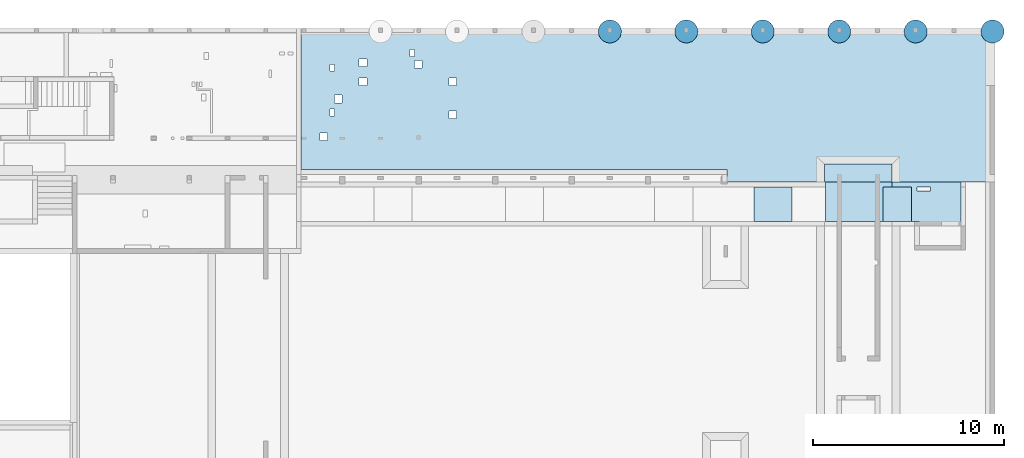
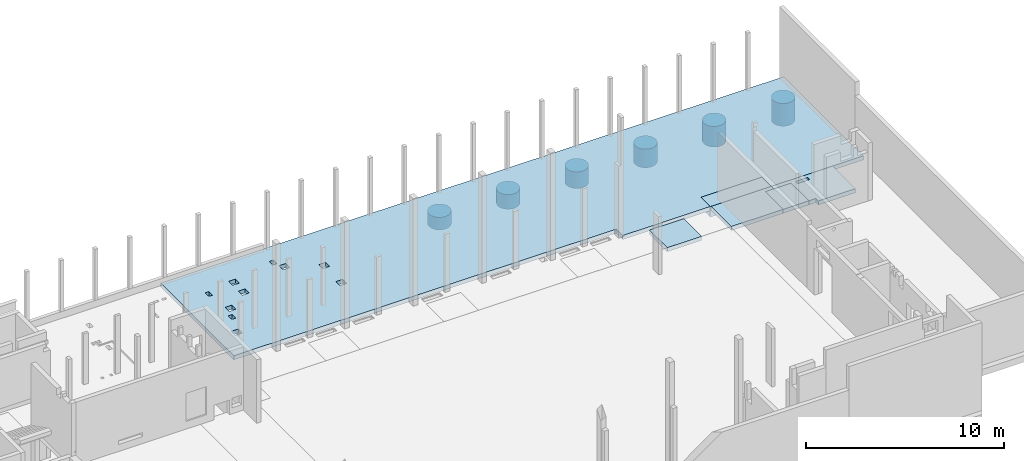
# One storey, part 5 of 12: 12 slabs, 30 openings.
"""IFC2X3 building model written with IfcOpenShell, lengths in metres."""

import ifcopenshell
import ifcopenshell.guid

model = None  # the IFC model being written
_history = None  # IfcOwnerHistory: only IFC2X3 demands one
_inside = {}  # id of a spatial element -> (the spatial element, [elements in it])
_under = {}  # id of a project, library or spatial element -> (it, [spatial elements below it])
_declared = {}  # id of a project -> (the project, [libraries it declares])
_typed = {}  # id of a type object -> (the type object, [elements of that type])
_made_of = {}  # id of a material, layer set ... -> (it, [elements and type objects made of it])


def new_model(schema):
    """Start an empty IFC model of exactly this schema.

    Asked for "IFC4X3", IfcOpenShell would pick the latest addendum, in which some entities
    have other attributes; the version numbers below select the first issue.
    IFC2X3 requires an IfcOwnerHistory on every rooted entity: one is made here for all.
    """
    global model, _history
    if schema == "IFC4X3":
        model = ifcopenshell.file(schema_version=(4, 3, 0, 0))
    else:
        model = ifcopenshell.file(schema=schema)
    _inside.clear()
    _under.clear()
    _declared.clear()
    _typed.clear()
    _made_of.clear()
    _history = None
    if model.schema == "IFC2X3":
        org = make("IfcOrganization", Name="unknown")
        user = make(
            "IfcPersonAndOrganization",
            ThePerson=make("IfcPerson", FamilyName="unknown"),
            TheOrganization=org,
        )
        app = make(
            "IfcApplication",
            ApplicationDeveloper=org,
            Version="unknown",
            ApplicationFullName="unknown",
            ApplicationIdentifier="unknown",
        )
        _history = make(
            "IfcOwnerHistory",
            OwningUser=user,
            OwningApplication=app,
            ChangeAction="ADDED",
            CreationDate=0,
        )
    return model


def make(cls, **values):
    """One entity of the class cls with the attributes given. An attribute that is None is left unset."""
    return model.create_entity(
        cls, **{name: value for name, value in values.items() if value is not None}
    )


def entity(cls, *values):
    """Any entity or typed value of the class cls, its attributes in the order of the schema. None: left unset."""
    e = model.create_entity(cls)
    for i, value in enumerate(values):
        if value is not None:
            e[i] = value
    return e


def rooted(cls, **values):
    """An entity with a GlobalId (a new one), such as an element, a storey or a relation."""
    return make(cls, GlobalId=ifcopenshell.guid.new(), OwnerHistory=_history, **values)


def si_unit(unit_type, name, prefix=None):
    """IfcSIUnit, for example si_unit("LENGTHUNIT", "METRE", prefix="MILLI")."""
    return make("IfcSIUnit", UnitType=unit_type, Prefix=prefix, Name=name)


def converted_unit(unit_type, name, factor, base, dimensions=None, offset=None):
    """IfcConversionBasedUnit, such as the inch: factor (a typed value) times the base unit."""
    return make(
        "IfcConversionBasedUnit"
        if offset is None
        else "IfcConversionBasedUnitWithOffset",
        ConversionOffset=offset,
        Dimensions=None
        if dimensions is None
        else entity("IfcDimensionalExponents", *dimensions),
        UnitType=unit_type,
        Name=name,
        ConversionFactor=make(
            "IfcMeasureWithUnit", ValueComponent=factor, UnitComponent=base
        ),
    )


def assignment(units):
    """IfcUnitAssignment: the units of a project."""
    return None if units is None else make("IfcUnitAssignment", Units=units)


def point(xyz):
    """IfcCartesianPoint."""
    return None if xyz is None else make("IfcCartesianPoint", Coordinates=xyz)


def direction(xyz):
    """IfcDirection."""
    return None if xyz is None else make("IfcDirection", DirectionRatios=xyz)


def frame(location, z_axis=None, x_axis=None):
    """IfcAxis2Placement3D, a coordinate frame: its origin and axes. An axis left out is left unset."""
    return make(
        "IfcAxis2Placement3D",
        Location=point(location),
        Axis=direction(z_axis),
        RefDirection=direction(x_axis),
    )


def frame_2d(location, x_axis=None):
    """IfcAxis2Placement2D, a coordinate frame in the plane: its origin and x axis."""
    return make(
        "IfcAxis2Placement2D", Location=point(location), RefDirection=direction(x_axis)
    )


def origin():
    """The frame at (0, 0, 0) with its axes left unset."""
    return frame((0.0, 0.0, 0.0))


def origin_2d_with_axis():
    """The frame at (0, 0) in the plane with the x axis (1, 0) written out."""
    return frame_2d((0.0, 0.0), x_axis=(1.0, 0.0))


def place(relative_to, where):
    """IfcLocalPlacement: puts the frame where relative to a parent placement (None: the world)."""
    return make(
        "IfcLocalPlacement", PlacementRelTo=relative_to, RelativePlacement=where
    )


def context(
    kind, dimensions, precision=None, world=None, true_north=None, identifier=None
):
    """IfcGeometricRepresentationContext, for example the 3D "Model" context."""
    return make(
        "IfcGeometricRepresentationContext",
        ContextIdentifier=identifier,
        ContextType=kind,
        CoordinateSpaceDimension=dimensions,
        Precision=precision,
        WorldCoordinateSystem=world,
        TrueNorth=true_north,
    )


def subcontext(parent, identifier, kind, view, scale=None):
    """IfcGeometricRepresentationSubContext, for example "Body" below "Model"."""
    return make(
        "IfcGeometricRepresentationSubContext",
        ContextIdentifier=identifier,
        ContextType=kind,
        ParentContext=parent,
        TargetScale=scale,
        TargetView=view,
    )


def project(units=None, contexts=None):
    """IfcProject with its units and contexts."""
    return rooted(
        "IfcProject",
        Name="project",
        RepresentationContexts=contexts,
        UnitsInContext=assignment(units),
    )


def spatial(cls, under=None, at=None, **own):
    """A site, building, storey or space (cls), placed at a placement, below another one or the project."""
    s = rooted(cls, ObjectPlacement=at, **own)
    if under is not None:
        _under.setdefault(under.id(), (under, []))[1].append(s)
    return s


def polyline(points):
    """IfcPolyline through the points."""
    return make("IfcPolyline", Points=[point(p) for p in points])


def profile(cls, at=None, kind="AREA", **sizes):
    """A parametric profile (cls). Its sizes go by their IFC names, for example OverallWidth=200.0."""
    return make(cls, ProfileType=kind, Position=at, **sizes)


def rectangle(**sizes):
    """IfcRectangleProfileDef."""
    return profile("IfcRectangleProfileDef", **sizes)


def circle(**sizes):
    """IfcCircleProfileDef."""
    return profile("IfcCircleProfileDef", **sizes)


def outline(outer, holes=None, kind="AREA"):
    """IfcArbitraryClosedProfileDef: a profile drawn as a closed curve; with holes, ...WithVoids."""
    if holes is None:
        return make("IfcArbitraryClosedProfileDef", ProfileType=kind, OuterCurve=outer)
    return make(
        "IfcArbitraryProfileDefWithVoids",
        ProfileType=kind,
        OuterCurve=outer,
        InnerCurves=holes,
    )


def extrude(swept, where, along, depth):
    """IfcExtrudedAreaSolid: the profile swept, set in the frame where, extruded along a direction by depth."""
    return make(
        "IfcExtrudedAreaSolid",
        SweptArea=swept,
        Position=where,
        ExtrudedDirection=direction(along),
        Depth=depth,
    )


def boolean(op, a, b):
    """IfcBooleanResult of two solids."""
    return make("IfcBooleanResult", Operator=op, FirstOperand=a, SecondOperand=b)


def shape(context_of_items, identifier, shape_type, items):
    """IfcShapeRepresentation: the items that make up one representation, for example the "Body"."""
    return make(
        "IfcShapeRepresentation",
        ContextOfItems=context_of_items,
        RepresentationIdentifier=identifier,
        RepresentationType=shape_type,
        Items=items,
    )


def material(Name=None, Category=None):
    """IfcMaterial."""
    return make("IfcMaterial", Name=Name, Category=Category)


def layer(
    of_material, thickness, ventilated=None, Name=None, Category=None, Priority=None
):
    """IfcMaterialLayer: one layer of a wall or slab, of a material (None: an air gap)."""
    return make(
        "IfcMaterialLayer",
        Material=of_material,
        LayerThickness=thickness,
        IsVentilated=ventilated,
        Name=Name,
        Category=Category,
        Priority=Priority,
    )


def layer_set(layers, Name=None):
    """IfcMaterialLayerSet."""
    return make("IfcMaterialLayerSet", MaterialLayers=layers, LayerSetName=Name)


def layer_usage(for_layer_set, set_direction, sense, offset, extent=None):
    """IfcMaterialLayerSetUsage: how a layer set lies in its element."""
    return make(
        "IfcMaterialLayerSetUsage",
        ForLayerSet=for_layer_set,
        LayerSetDirection=set_direction,
        DirectionSense=sense,
        OffsetFromReferenceLine=offset,
        ReferenceExtent=extent,
    )


def made_of(thing, what):
    """Note that an element or type object is made of a material, layer set ...; save() writes the relation."""
    if what is not None:
        _made_of.setdefault(what.id(), (what, []))[1].append(thing)
    return thing


def type_object(cls, material=None, **own):
    """A type object (cls), such as IfcWallType, which elements share."""
    return made_of(rooted(cls, **own), material)


def element(
    cls,
    number,
    at=None,
    inside=None,
    cuts=None,
    type_object=None,
    material=None,
    context=None,
    identifier="Body",
    shape_type=None,
    held_by="IfcProductDefinitionShape",
    body=None,
    shapes=None,
    **own,
):
    """One element of the class cls, such as IfcWall. Its Tag is "e" and its number.

    at: its placement. inside: the storey or other place that contains it. cuts: it is an
    opening in that element (IfcRelVoidsElement). A single representation is given by context,
    identifier, shape_type and body (its items); several are given by shapes. held_by: the class
    of the entity that holds the representations. save() writes the other relations.
    """
    e = rooted(cls, Tag="e%d" % number, ObjectPlacement=at, **own)
    if body is not None:
        shapes = [shape(context, identifier, shape_type, body)]
    if shapes is not None:
        e.Representation = make(held_by, Representations=shapes)
    if inside is not None:
        _inside.setdefault(inside.id(), (inside, []))[1].append(e)
    if cuts is not None:
        rooted(
            "IfcRelVoidsElement", RelatingBuildingElement=cuts, RelatedOpeningElement=e
        )
    if type_object is not None:
        _typed.setdefault(type_object.id(), (type_object, []))[1].append(e)
    return made_of(e, material)


def aggregate(whole, parts):
    """IfcRelAggregates: a whole, such as a stair, and the parts it consists of."""
    return rooted("IfcRelAggregates", RelatingObject=whole, RelatedObjects=parts)


def save(model, path):
    """Write the relations noted so far, then the file.

    IfcRelAggregates (storeys below a building ...), IfcRelContainedInSpatialStructure (elements
    in a storey), IfcRelDefinesByType, IfcRelAssociatesMaterial and IfcRelDeclares: one each for
    every whole, place, type object, material and project.
    """
    for whole, parts in _under.values():
        aggregate(whole, parts)
    for where, things in _inside.values():
        rooted(
            "IfcRelContainedInSpatialStructure",
            RelatedElements=things,
            RelatingStructure=where,
        )
    for kind, things in _typed.values():
        rooted("IfcRelDefinesByType", RelatedObjects=things, RelatingType=kind)
    for what, things in _made_of.values():
        rooted("IfcRelAssociatesMaterial", RelatedObjects=things, RelatingMaterial=what)
    for by, libraries in _declared.values():
        rooted("IfcRelDeclares", RelatingContext=by, RelatedDefinitions=libraries)
    model.write(path)


model = new_model("IFC2X3")

# Units and contexts
model_context = context("Model", 3, precision=1e-05, world=frame((30.086303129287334, 2.687674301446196, 462.0)), true_north=direction((0.19008937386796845, 0.9817667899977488)))
body_context = subcontext(model_context, "Body", "Model", "MODEL_VIEW")
ifc_project = project(units=[si_unit("LENGTHUNIT", "METRE"), si_unit("AREAUNIT", "SQUARE_METRE"), converted_unit("PLANEANGLEUNIT", "DEGREE", entity("IfcPlaneAngleMeasure", 0.017453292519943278), si_unit("PLANEANGLEUNIT", "RADIAN"), dimensions=[0, 0, 0, 0, 0, 0, 0]), si_unit("VOLUMEUNIT", "CUBIC_METRE")], contexts=[model_context])

# Site, building, storey
site_placement = place(None, origin())
site = spatial("IfcSite", under=ifc_project, at=site_placement, Name="Default", CompositionType="ELEMENT")
building_placement = place(site_placement, origin())
building = spatial("IfcBuilding", under=site, at=building_placement, CompositionType="ELEMENT")
storey_placement = place(building_placement, frame((0.0, 0.0, -3.800000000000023)))
storey = spatial("IfcBuildingStorey", under=building, at=storey_placement, Name="FB_U01_OKFB", CompositionType="ELEMENT", Elevation=-3.800000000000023)

# Slab, opening
ifc_material_1 = material(Name="WS_CONCRETE_REINFORCED")
ifc_layer_1 = layer(ifc_material_1, 0.24999999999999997)
ifc_layer_set_1 = layer_set([ifc_layer_1], Name="Geschossdecke:WS_SLB_CON_250")
ifc_layer_usage_1 = layer_usage(ifc_layer_set_1, "AXIS3", "POSITIVE", 0.0)
slab_type_1 = type_object("IfcSlabType", Name="Geschossdecke:WS_SLB_CON_250", PredefinedType="FLOOR", material=ifc_layer_set_1)
slab_1_placement = place(storey_placement, origin())
slab_1 = element("IfcSlab", 1, at=slab_1_placement, inside=storey, type_object=slab_type_1, material=ifc_layer_usage_1, Name="Geschossdecke:WS_SLB_CON_250", ObjectType="Geschossdecke:WS_SLB_CON_250", PredefinedType="FLOOR", context=body_context, shape_type="SweptSolid", body=[
    extrude(outline(polyline([(-1.283320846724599, -2.171667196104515), (0.7666416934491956, -2.171667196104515), (0.7666416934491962, 1.328334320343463), (0.5166791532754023, 1.328334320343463), (0.516679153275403, 0.8433328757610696), (-1.2833208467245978, 0.8433328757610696), (-1.283320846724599, -2.171667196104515)])), frame((91.5520044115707, -2.296250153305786, 3.6800000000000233), z_axis=(0.0, 0.0, -1.0), x_axis=(0.0, 1.0, 0.0)), (0.0, 0.0, 1.0), 0.25000000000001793),
])
opening_1_placement = place(slab_1_placement, origin())
element("IfcOpeningElement", 2, at=opening_1_placement, cuts=slab_1, Name="Geschossdecke:WS_SLB_CON_250", ObjectType="Opening", context=body_context, shape_type="SweptSolid", body=[
    extrude(rectangle(XDim=1.7999999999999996, YDim=1.5000000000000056, at=origin_2d_with_axis()), frame((93.14533728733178, -2.6795710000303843, 3.4300000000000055), z_axis=(0.0, 0.0, 1.0), x_axis=(0.0, -1.0, 0.0)), (0.0, 0.0, 1.0), 0.24999999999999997),
])

# Slab, openings
ifc_layer_usage_2 = layer_usage(ifc_layer_set_1, "AXIS3", "POSITIVE", 0.0)
slab_2_placement = place(storey_placement, origin())
solid = boolean("DIFFERENCE", boolean("DIFFERENCE", boolean("DIFFERENCE", boolean("DIFFERENCE", boolean("DIFFERENCE", boolean("DIFFERENCE", boolean("DIFFERENCE", boolean("DIFFERENCE", extrude(outline(polyline([(-1.27799830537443, -23.37500009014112), (6.117000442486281, -23.37500009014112), (6.117000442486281, 12.924999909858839), (-1.927998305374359, 12.924999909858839), (-1.927998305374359, 7.550000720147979), (-0.9830055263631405, 7.550000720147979), (-0.9830055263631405, 3.999999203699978), (-1.927998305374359, 3.9999992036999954), (-1.927998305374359, -1.0999997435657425), (-1.27799830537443, -1.0999997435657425), (-1.27799830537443, -23.37500009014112)])), frame((85.33033801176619, 0.3983505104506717, 3.6800000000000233), z_axis=(0.0, 0.0, -1.0), x_axis=(0.0, 1.0, 0.0)), (0.0, 0.0, 1.0), 0.25000000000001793), extrude(rectangle(XDim=0.39999999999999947, YDim=0.40000000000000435, at=frame_2d((0.0, -1.2989609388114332e-14), x_axis=(1.0, 0.0))), frame((63.129394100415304, 0.8503501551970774, 3.4300000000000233), z_axis=(0.0, 0.0, 1.0), x_axis=(0.0, 1.0, 0.0)), (0.0, 0.0, 1.0), 0.24999999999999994)), extrude(rectangle(XDim=0.3599999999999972, YDim=0.2299999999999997, at=frame_2d((0.0, -8.666678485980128e-15), x_axis=(1.0, 0.0))), frame((63.57933734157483, 2.1253515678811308, 3.4300000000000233), z_axis=(0.0, 0.0, 1.0), x_axis=(0.0, 1.0, 0.0)), (0.0, 0.0, 1.0), 0.24999999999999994)), extrude(rectangle(XDim=0.3599999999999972, YDim=0.2299999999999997, at=frame_2d((0.0, -8.666678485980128e-15), x_axis=(1.0, 0.0))), frame((63.57933734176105, 4.455173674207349, 3.4300000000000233), z_axis=(0.0, 0.0, 1.0), x_axis=(0.0, 1.0, 0.0)), (0.0, 0.0, 1.0), 0.24999999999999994)), extrude(rectangle(XDim=0.3999999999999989, YDim=0.40000000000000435, at=frame_2d((-2.636779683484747e-16, -4.3298697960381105e-15), x_axis=(1.0, 0.0))), frame((63.903911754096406, 2.8253515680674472, 3.4300000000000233), z_axis=(0.0, 0.0, 1.0), x_axis=(0.0, 1.0, 0.0)), (0.0, 0.0, 1.0), 0.24999999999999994)), extrude(rectangle(XDim=0.39999999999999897, YDim=0.40000000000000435, at=frame_2d((0.0, -4.3298697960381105e-15), x_axis=(1.0, 0.0))), frame((65.1893367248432, 3.7292182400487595, 3.4300000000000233), z_axis=(0.0, 0.0, 1.0), x_axis=(0.0, 1.0, 0.0)), (0.0, 0.0, 1.0), 0.24999999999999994)), extrude(rectangle(XDim=0.3999999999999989, YDim=0.40000000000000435, at=frame_2d((0.0, -4.3298697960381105e-15), x_axis=(1.0, 0.0))), frame((65.1893367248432, 4.723367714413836, 3.4300000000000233), z_axis=(0.0, 0.0, 1.0), x_axis=(0.0, 1.0, 0.0)), (0.0, 0.0, 1.0), 0.24999999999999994)), extrude(rectangle(XDim=0.3599999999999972, YDim=0.2299999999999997, at=frame_2d((5.412337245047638e-16, -8.666678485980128e-15), x_axis=(1.0, 0.0))), frame((67.76533831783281, 5.235392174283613, 3.4300000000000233), z_axis=(0.0, 0.0, 1.0), x_axis=(0.0, 1.0, 0.0)), (0.0, 0.0, 1.0), 0.24999999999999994)), extrude(rectangle(XDim=0.3999999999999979, YDim=0.40000000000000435, at=frame_2d((0.0, -4.3298697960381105e-15), x_axis=(1.0, 0.0))), frame((68.08283825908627, 4.637667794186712, 3.4300000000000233), z_axis=(0.0, 0.0, 1.0), x_axis=(0.0, 1.0, 0.0)), (0.0, 0.0, 1.0), 0.24999999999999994))
slab_2 = element("IfcSlab", 3, at=slab_2_placement, inside=storey, type_object=slab_type_1, material=ifc_layer_usage_2, Name="Geschossdecke:WS_SLB_CON_250", ObjectType="Geschossdecke:WS_SLB_CON_250", PredefinedType="FLOOR", context=body_context, shape_type="SweptSolid", body=[
    boolean("DIFFERENCE", boolean("DIFFERENCE", solid, extrude(rectangle(XDim=0.39999999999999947, YDim=0.40000000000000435, at=frame_2d((2.636779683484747e-16, -4.3298697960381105e-15), x_axis=(1.0, 0.0))), frame((69.87844319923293, 1.9972222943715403, 3.4300000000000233), z_axis=(0.0, 0.0, 1.0), x_axis=(0.0, 1.0, 0.0)), (0.0, 0.0, 1.0), 0.24999999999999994)), extrude(rectangle(XDim=0.3999999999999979, YDim=0.40000000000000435, at=frame_2d((0.0, -4.3298697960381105e-15), x_axis=(1.0, 0.0))), frame((69.87844319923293, 3.7193406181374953, 3.4300000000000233), z_axis=(0.0, 0.0, 1.0), x_axis=(0.0, 1.0, 0.0)), (0.0, 0.0, 1.0), 0.24999999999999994)),
])
opening_2_placement = place(slab_2_placement, origin())
element("IfcOpeningElement", 4, at=opening_2_placement, cuts=slab_2, Name="Geschossdecke:WS_SLB_CON_250", ObjectType="Opening", context=body_context, shape_type="SweptSolid", body=[
    extrude(rectangle(XDim=0.31999999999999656, YDim=0.3200000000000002, at=frame_2d((0.0, 6.938893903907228e-17), x_axis=(1.0, 0.0))), frame((62.515338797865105, -1.3695653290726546, 3.4300000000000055), z_axis=(0.0, 0.0, 1.0), x_axis=(-1.0, 0.0, 0.0)), (0.0, 0.0, 1.0), 0.24999999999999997),
])
opening_3_placement = place(slab_2_placement, origin())
element("IfcOpeningElement", 5, at=opening_3_placement, cuts=slab_2, Name="Geschossdecke:WS_SLB_CON_250", ObjectType="Opening", context=body_context, shape_type="SweptSolid", body=[
    extrude(rectangle(XDim=0.40000000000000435, YDim=0.39999999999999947, at=frame_2d((-4.3298697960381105e-15, 0.0), x_axis=(1.0, 0.0))), frame((63.12939410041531, 0.8503501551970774, 3.4300000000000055), z_axis=(0.0, 0.0, 1.0), x_axis=(-1.0, 0.0, 0.0)), (0.0, 0.0, 1.0), 0.24999999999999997),
])
opening_4_placement = place(slab_2_placement, origin())
element("IfcOpeningElement", 6, at=opening_4_placement, cuts=slab_2, Name="Geschossdecke:WS_SLB_CON_250", ObjectType="Opening", context=body_context, shape_type="SweptSolid", body=[
    extrude(rectangle(XDim=0.2299999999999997, YDim=0.3599999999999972, at=origin_2d_with_axis()), frame((63.579337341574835, 2.1253515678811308, 3.4300000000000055), z_axis=(0.0, 0.0, 1.0), x_axis=(-1.0, 0.0, 0.0)), (0.0, 0.0, 1.0), 0.24999999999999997),
])
opening_5_placement = place(slab_2_placement, origin())
element("IfcOpeningElement", 7, at=opening_5_placement, cuts=slab_2, Name="Geschossdecke:WS_SLB_CON_250", ObjectType="Opening", context=body_context, shape_type="SweptSolid", body=[
    extrude(rectangle(XDim=0.40000000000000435, YDim=0.39999999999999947, at=frame_2d((-4.3298697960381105e-15, 2.636779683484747e-16), x_axis=(1.0, 0.0))), frame((63.903911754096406, 2.8253515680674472, 3.4300000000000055), z_axis=(0.0, 0.0, 1.0), x_axis=(-1.0, 0.0, 0.0)), (0.0, 0.0, 1.0), 0.24999999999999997),
])
opening_6_placement = place(slab_2_placement, origin())
element("IfcOpeningElement", 8, at=opening_6_placement, cuts=slab_2, Name="Geschossdecke:WS_SLB_CON_250", ObjectType="Opening", context=body_context, shape_type="SweptSolid", body=[
    extrude(rectangle(XDim=0.2299999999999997, YDim=0.3599999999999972, at=origin_2d_with_axis()), frame((63.579337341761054, 4.455173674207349, 3.4300000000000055), z_axis=(0.0, 0.0, 1.0), x_axis=(-1.0, 0.0, 0.0)), (0.0, 0.0, 1.0), 0.24999999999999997),
])
opening_7_placement = place(slab_2_placement, origin())
element("IfcOpeningElement", 9, at=opening_7_placement, cuts=slab_2, Name="Geschossdecke:WS_SLB_CON_250", ObjectType="Opening", context=body_context, shape_type="SweptSolid", body=[
    extrude(rectangle(XDim=0.40000000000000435, YDim=0.39999999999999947, at=frame_2d((-4.3298697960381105e-15, -2.636779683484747e-16), x_axis=(1.0, 0.0))), frame((65.1893367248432, 4.723367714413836, 3.4300000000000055), z_axis=(0.0, 0.0, 1.0), x_axis=(-1.0, 0.0, 0.0)), (0.0, 0.0, 1.0), 0.24999999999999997),
])
opening_8_placement = place(slab_2_placement, origin())
element("IfcOpeningElement", 10, at=opening_8_placement, cuts=slab_2, Name="Geschossdecke:WS_SLB_CON_250", ObjectType="Opening", context=body_context, shape_type="SweptSolid", body=[
    extrude(rectangle(XDim=0.40000000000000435, YDim=0.39999999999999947, at=frame_2d((-4.3298697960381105e-15, 2.636779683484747e-16), x_axis=(1.0, 0.0))), frame((65.1893367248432, 3.7292182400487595, 3.4300000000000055), z_axis=(0.0, 0.0, 1.0), x_axis=(-1.0, 0.0, 0.0)), (0.0, 0.0, 1.0), 0.24999999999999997),
])
opening_9_placement = place(slab_2_placement, origin())
element("IfcOpeningElement", 11, at=opening_9_placement, cuts=slab_2, Name="Geschossdecke:WS_SLB_CON_250", ObjectType="Opening", context=body_context, shape_type="SweptSolid", body=[
    extrude(rectangle(XDim=0.2299999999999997, YDim=0.3599999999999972, at=frame_2d((0.0, -5.412337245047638e-16), x_axis=(1.0, 0.0))), frame((67.76533831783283, 5.235392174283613, 3.4300000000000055), z_axis=(0.0, 0.0, 1.0), x_axis=(-1.0, 0.0, 0.0)), (0.0, 0.0, 1.0), 0.24999999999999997),
])
opening_10_placement = place(slab_2_placement, origin())
element("IfcOpeningElement", 12, at=opening_10_placement, cuts=slab_2, Name="Geschossdecke:WS_SLB_CON_250", ObjectType="Opening", context=body_context, shape_type="SweptSolid", body=[
    extrude(rectangle(XDim=0.40000000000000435, YDim=0.39999999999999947, at=frame_2d((4.3298697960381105e-15, 2.636779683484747e-16), x_axis=(1.0, 0.0))), frame((68.08283825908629, 4.637667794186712, 3.4300000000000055), z_axis=(0.0, 0.0, 1.0), x_axis=(-1.0, 0.0, 0.0)), (0.0, 0.0, 1.0), 0.24999999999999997),
])
opening_11_placement = place(slab_2_placement, origin())
element("IfcOpeningElement", 13, at=opening_11_placement, cuts=slab_2, Name="Geschossdecke:WS_SLB_CON_250", ObjectType="Opening", context=body_context, shape_type="SweptSolid", body=[
    extrude(rectangle(XDim=0.40000000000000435, YDim=0.39999999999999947, at=frame_2d((-4.3298697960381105e-15, 2.636779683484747e-16), x_axis=(1.0, 0.0))), frame((69.87844319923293, 3.7193406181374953, 3.4300000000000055), z_axis=(0.0, 0.0, 1.0), x_axis=(-1.0, 0.0, 0.0)), (0.0, 0.0, 1.0), 0.24999999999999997),
])
opening_12_placement = place(slab_2_placement, origin())
element("IfcOpeningElement", 14, at=opening_12_placement, cuts=slab_2, Name="Geschossdecke:WS_SLB_CON_250", ObjectType="Opening", context=body_context, shape_type="SweptSolid", body=[
    extrude(rectangle(XDim=0.40000000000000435, YDim=0.39999999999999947, at=frame_2d((-4.3298697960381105e-15, -2.636779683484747e-16), x_axis=(1.0, 0.0))), frame((69.87844319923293, 1.9972222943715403, 3.4300000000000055), z_axis=(0.0, 0.0, 1.0), x_axis=(-1.0, 0.0, 0.0)), (0.0, 0.0, 1.0), 0.24999999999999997),
])
opening_13_placement = place(slab_2_placement, origin())
element("IfcOpeningElement", 15, at=opening_13_placement, cuts=slab_2, Name="Geschossdecke:WS_SLB_CON_250", ObjectType="Opening", context=body_context, shape_type="SweptSolid", body=[
    extrude(rectangle(XDim=0.22000000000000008, YDim=1.020000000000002, at=frame_2d((0.0, 4.3298697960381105e-15), x_axis=(1.0, 0.0))), frame((65.19533996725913, -1.4196076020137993, 3.4300000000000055), z_axis=(0.0, 0.0, 1.0), x_axis=(0.0, -1.0, 0.0)), (0.0, 0.0, 1.0), 0.24999999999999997),
])
opening_14_placement = place(slab_2_placement, origin())
element("IfcOpeningElement", 16, at=opening_14_placement, cuts=slab_2, Name="Geschossdecke:WS_SLB_CON_250", ObjectType="Opening", context=body_context, shape_type="SweptSolid", body=[
    extrude(rectangle(XDim=0.22000000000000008, YDim=1.020000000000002, at=frame_2d((0.0, -4.3298697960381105e-15), x_axis=(1.0, 0.0))), frame((67.0153331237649, -1.419607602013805, 3.4300000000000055), z_axis=(0.0, 0.0, 1.0), x_axis=(0.0, -1.0, 0.0)), (0.0, 0.0, 1.0), 0.24999999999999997),
])
opening_15_placement = place(slab_2_placement, origin())
element("IfcOpeningElement", 17, at=opening_15_placement, cuts=slab_2, Name="Geschossdecke:WS_SLB_CON_250", ObjectType="Opening", context=body_context, shape_type="SweptSolid", body=[
    extrude(rectangle(XDim=0.22000000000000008, YDim=1.020000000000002, at=frame_2d((0.0, -4.3298697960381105e-15), x_axis=(1.0, 0.0))), frame((69.19533442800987, -1.4196076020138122, 3.4300000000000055), z_axis=(0.0, 0.0, 1.0), x_axis=(0.0, -1.0, 0.0)), (0.0, 0.0, 1.0), 0.24999999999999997),
])
opening_16_placement = place(slab_2_placement, origin())
element("IfcOpeningElement", 18, at=opening_16_placement, cuts=slab_2, Name="Geschossdecke:WS_SLB_CON_250", ObjectType="Opening", context=body_context, shape_type="SweptSolid", body=[
    extrude(rectangle(XDim=0.22000000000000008, YDim=1.020000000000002, at=frame_2d((0.0, -4.3298697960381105e-15), x_axis=(1.0, 0.0))), frame((73.19534044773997, -1.4196076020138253, 3.4300000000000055), z_axis=(0.0, 0.0, 1.0), x_axis=(0.0, -1.0, 0.0)), (0.0, 0.0, 1.0), 0.24999999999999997),
])
opening_17_placement = place(slab_2_placement, origin())
element("IfcOpeningElement", 19, at=opening_17_placement, cuts=slab_2, Name="Geschossdecke:WS_SLB_CON_250", ObjectType="Opening", context=body_context, shape_type="SweptSolid", body=[
    extrude(rectangle(XDim=0.22000000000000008, YDim=1.0199999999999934, at=frame_2d((0.0, -8.659739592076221e-15), x_axis=(1.0, 0.0))), frame((81.1948489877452, -1.4196477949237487, 3.4300000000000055), z_axis=(0.0, 0.0, 1.0), x_axis=(0.0, -1.0, 0.0)), (0.0, 0.0, 1.0), 0.24999999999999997),
])
opening_18_placement = place(slab_2_placement, origin())
element("IfcOpeningElement", 20, at=opening_18_placement, cuts=slab_2, Name="Geschossdecke:WS_SLB_CON_250", ObjectType="Opening", context=body_context, shape_type="SweptSolid", body=[
    extrude(rectangle(XDim=0.22000000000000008, YDim=1.0199999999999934, at=frame_2d((0.0, -8.659739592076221e-15), x_axis=(1.0, 0.0))), frame((83.01533312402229, -1.419647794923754, 3.4300000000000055), z_axis=(0.0, 0.0, 1.0), x_axis=(0.0, -1.0, 0.0)), (0.0, 0.0, 1.0), 0.24999999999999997),
])
opening_19_placement = place(slab_2_placement, origin())
element("IfcOpeningElement", 21, at=opening_19_placement, cuts=slab_2, Name="Geschossdecke:WS_SLB_CON_250", ObjectType="Opening", context=body_context, shape_type="SweptSolid", body=[
    extrude(rectangle(XDim=0.31999999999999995, YDim=0.31999999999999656, at=frame_2d((-6.938893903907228e-17, 0.0), x_axis=(1.0, 0.0))), frame((79.69533854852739, -1.3695745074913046, 3.4300000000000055), z_axis=(0.0, 0.0, 1.0), x_axis=(0.0, -1.0, 0.0)), (0.0, 0.0, 1.0), 0.24999999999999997),
])
opening_20_placement = place(slab_2_placement, origin())
element("IfcOpeningElement", 22, at=opening_20_placement, cuts=slab_2, Name="Geschossdecke:WS_SLB_CON_250", ObjectType="Opening", context=body_context, shape_type="SweptSolid", body=[
    extrude(rectangle(XDim=1.100000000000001, YDim=0.30000000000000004, at=frame_2d((4.3298697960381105e-15, 0.0), x_axis=(1.0, 0.0))), frame((73.19534044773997, -1.4196076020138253, 3.639999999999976), z_axis=(0.0, 0.0, 1.0), x_axis=(-1.0, 0.0, 0.0)), (0.0, 0.0, 1.0), 0.04000000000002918),
])
opening_21_placement = place(slab_2_placement, origin())
element("IfcOpeningElement", 23, at=opening_21_placement, cuts=slab_2, Name="Geschossdecke:WS_SLB_CON_250", ObjectType="Opening", context=body_context, shape_type="SweptSolid", body=[
    extrude(rectangle(XDim=1.100000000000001, YDim=0.30000000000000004, at=frame_2d((4.3298697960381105e-15, 0.0), x_axis=(1.0, 0.0))), frame((69.19533442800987, -1.4196076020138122, 3.639999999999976), z_axis=(0.0, 0.0, 1.0), x_axis=(-1.0, 0.0, 0.0)), (0.0, 0.0, 1.0), 0.04000000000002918),
])
opening_22_placement = place(slab_2_placement, origin())
element("IfcOpeningElement", 24, at=opening_22_placement, cuts=slab_2, Name="Geschossdecke:WS_SLB_CON_250", ObjectType="Opening", context=body_context, shape_type="SweptSolid", body=[
    extrude(rectangle(XDim=1.100000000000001, YDim=0.30000000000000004, at=frame_2d((4.3298697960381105e-15, 0.0), x_axis=(1.0, 0.0))), frame((65.19533996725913, -1.4196076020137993, 3.639999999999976), z_axis=(0.0, 0.0, 1.0), x_axis=(-1.0, 0.0, 0.0)), (0.0, 0.0, 1.0), 0.04000000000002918),
])
opening_23_placement = place(slab_2_placement, origin())
element("IfcOpeningElement", 25, at=opening_23_placement, cuts=slab_2, Name="Geschossdecke:WS_SLB_CON_250", ObjectType="Opening", context=body_context, shape_type="SweptSolid", body=[
    extrude(rectangle(XDim=1.100000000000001, YDim=0.30000000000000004, at=frame_2d((-4.3298697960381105e-15, 0.0), x_axis=(1.0, 0.0))), frame((67.01533312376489, -1.419607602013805, 3.639999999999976), z_axis=(0.0, 0.0, 1.0), x_axis=(-1.0, 0.0, 0.0)), (0.0, 0.0, 1.0), 0.04000000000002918),
])
opening_24_placement = place(slab_2_placement, origin())
element("IfcOpeningElement", 26, at=opening_24_placement, cuts=slab_2, Name="Geschossdecke:WS_SLB_CON_250", ObjectType="Opening", context=body_context, shape_type="SweptSolid", body=[
    extrude(rectangle(XDim=1.0999999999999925, YDim=0.30000000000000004, at=origin_2d_with_axis()), frame((83.01533312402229, -1.4196477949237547, 3.639999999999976), z_axis=(0.0, 0.0, 1.0), x_axis=(-1.0, 0.0, 0.0)), (0.0, 0.0, 1.0), 0.04000000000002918),
])
opening_25_placement = place(slab_2_placement, origin())
element("IfcOpeningElement", 27, at=opening_25_placement, cuts=slab_2, Name="Geschossdecke:WS_SLB_CON_250", ObjectType="Opening", context=body_context, shape_type="SweptSolid", body=[
    extrude(rectangle(XDim=1.0999999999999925, YDim=0.30000000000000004, at=origin_2d_with_axis()), frame((81.1948489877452, -1.419647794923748, 3.639999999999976), z_axis=(0.0, 0.0, 1.0), x_axis=(-1.0, 0.0, 0.0)), (0.0, 0.0, 1.0), 0.04000000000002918),
])
opening_26_placement = place(slab_2_placement, origin())
element("IfcOpeningElement", 28, at=opening_26_placement, cuts=slab_2, Name="Geschossdecke:WS_SLB_CON_250", ObjectType="Opening", context=body_context, shape_type="SweptSolid", body=[
    extrude(rectangle(XDim=0.22000000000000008, YDim=1.020000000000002, at=frame_2d((0.0, -4.3298697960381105e-15), x_axis=(1.0, 0.0))), frame((77.19534019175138, -1.4196076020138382, 3.4300000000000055), z_axis=(0.0, 0.0, 1.0), x_axis=(0.0, -1.0, 0.0)), (0.0, 0.0, 1.0), 0.24999999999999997),
])
opening_27_placement = place(slab_2_placement, origin())
element("IfcOpeningElement", 29, at=opening_27_placement, cuts=slab_2, Name="Geschossdecke:WS_SLB_CON_250", ObjectType="Opening", context=body_context, shape_type="SweptSolid", body=[
    extrude(rectangle(XDim=1.100000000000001, YDim=0.30000000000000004, at=frame_2d((-4.3298697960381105e-15, 0.0), x_axis=(1.0, 0.0))), frame((77.19534019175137, -1.4196076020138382, 3.639999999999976), z_axis=(0.0, 0.0, 1.0), x_axis=(-1.0, 0.0, 0.0)), (0.0, 0.0, 1.0), 0.04000000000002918),
])

ifc_layer_usage_3 = layer_usage(ifc_layer_set_1, "AXIS3", "POSITIVE", 0.0)
slab_3_placement = place(storey_placement, origin())
slab_3 = element("IfcSlab", 30, at=slab_3_placement, inside=storey, type_object=slab_type_1, material=ifc_layer_usage_3, Name="Geschossdecke:WS_SLB_CON_250", ObjectType="Geschossdecke:WS_SLB_CON_250", PredefinedType="FLOOR", context=body_context, shape_type="SweptSolid", body=[
    boolean("DIFFERENCE", extrude(outline(polyline([(0.9000388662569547, -1.5062490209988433), (1.1499620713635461, -1.5062490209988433), (1.149962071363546, 2.083749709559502), (-1.1500004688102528, 2.083749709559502), (-1.1500004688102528, -0.08625022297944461), (-0.9000004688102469, -0.08625022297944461), (-0.9000004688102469, -0.4912504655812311), (0.9000388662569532, -0.4912504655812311), (0.9000388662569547, -1.5062490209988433)])), frame((94.38658775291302, -2.6796098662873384, 3.6800000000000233), z_axis=(0.0, 0.0, -1.0), x_axis=(0.0, 1.0, 0.0)), (0.0, 0.0, 1.0), 0.25000000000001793), extrude(rectangle(XDim=0.20000003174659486, YDim=0.7000000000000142, at=frame_2d((-2.706168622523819e-16, 0.0), x_axis=(1.0, 0.0))), frame((94.52733732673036, -1.8795770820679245, 3.4300000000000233), z_axis=(0.0, 0.0, 1.0), x_axis=(0.0, 1.0, 0.0)), (0.0, 0.0, 1.0), 0.24999999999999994)),
])
opening_28_placement = place(slab_3_placement, origin())
element("IfcOpeningElement", 31, at=opening_28_placement, cuts=slab_3, Name="Geschossdecke:WS_SLB_CON_250", ObjectType="Opening", context=body_context, shape_type="SweptSolid", body=[
    extrude(rectangle(XDim=2.169999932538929, YDim=1.0049664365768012, at=origin_2d_with_axis()), frame((95.38533749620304, -4.332093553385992, 3.4300000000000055), z_axis=(0.0, 0.0, 1.0), x_axis=(-1.0, 0.0, 0.0)), (0.0, 0.0, 1.0), 0.24999999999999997),
])
opening_29_placement = place(slab_3_placement, origin())
element("IfcOpeningElement", 32, at=opening_29_placement, cuts=slab_3, Name="Geschossdecke:WS_SLB_CON_250", ObjectType="Opening", context=body_context, shape_type="SweptSolid", body=[
    extrude(rectangle(XDim=1.7999999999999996, YDim=1.5000000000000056, at=origin_2d_with_axis()), frame((93.14533728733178, -2.6795710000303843, 3.4300000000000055), z_axis=(0.0, 0.0, 1.0), x_axis=(0.0, -1.0, 0.0)), (0.0, 0.0, 1.0), 0.24999999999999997),
])
opening_30_placement = place(slab_3_placement, origin())
element("IfcOpeningElement", 33, at=opening_30_placement, cuts=slab_3, Name="Geschossdecke:WS_SLB_CON_250", ObjectType="Opening", context=body_context, shape_type="SweptSolid", body=[
    extrude(rectangle(XDim=0.7000000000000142, YDim=0.20000003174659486, at=frame_2d((0.0, 2.706168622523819e-16), x_axis=(1.0, 0.0))), frame((94.52733732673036, -1.8795770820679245, 3.4300000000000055), z_axis=(0.0, 0.0, 1.0), x_axis=(-1.0, 0.0, 0.0)), (0.0, 0.0, 1.0), 0.24999999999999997),
])

# Slabs
ifc_layer_2 = layer(ifc_material_1, 0.65)
ifc_layer_set_2 = layer_set([ifc_layer_2], Name="Geschossdecke:WS_SLB_CON_650")
ifc_layer_usage_4 = layer_usage(ifc_layer_set_2, "AXIS3", "POSITIVE", 0.0)
slab_type_2 = type_object("IfcSlabType", Name="Geschossdecke:WS_SLB_CON_650", PredefinedType="FLOOR", material=ifc_layer_set_2)
slab_4_placement = place(storey_placement, origin())
element("IfcSlab", 34, at=slab_4_placement, inside=storey, type_object=slab_type_2, material=ifc_layer_usage_4, Name="Geschossdecke:WS_SLB_CON_650", ObjectType="Geschossdecke:WS_SLB_CON_650", PredefinedType="FLOOR", context=body_context, shape_type="SweptSolid", body=[
    extrude(rectangle(XDim=0.9449927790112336, YDim=3.5500015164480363, at=frame_2d((-2.7755575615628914e-17, 0.0), x_axis=(1.0, 0.0))), frame((91.1053379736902, -1.0571514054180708, 3.6800000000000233), z_axis=(0.0, 0.0, -1.0), x_axis=(0.0, 1.0, 0.0)), (0.0, 0.0, 1.0), 0.65),
])
ifc_material_2 = material(Name="WS_CONCRETE")
ifc_layer_3 = layer(ifc_material_2, 0.7749999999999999)
ifc_layer_set_3 = layer_set([ifc_layer_3], Name="Bodenplatte:WS_FDN_SLB_775_Magerbeton")
ifc_layer_usage_5 = layer_usage(ifc_layer_set_3, "AXIS3", "POSITIVE", 0.0)
slab_type_3 = type_object("IfcSlabType", Name="Bodenplatte:WS_FDN_SLB_775_Magerbeton", PredefinedType="BASESLAB", material=ifc_layer_set_3)
slab_5_placement = place(storey_placement, origin())
element("IfcSlab", 35, at=slab_5_placement, inside=storey, type_object=slab_type_3, material=ifc_layer_usage_5, Name="Bodenplatte:WS_FDN_SLB_775_Magerbeton", ObjectType="Bodenplatte:WS_FDN_SLB_775_Magerbeton", PredefinedType="BASESLAB", context=body_context, shape_type="SweptSolid", body=[
    extrude(circle(Radius=0.600000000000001, at=origin_2d_with_axis()), frame((78.10784114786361, 6.355351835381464, 2.580000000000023), z_axis=(0.0, 0.0, -1.0), x_axis=(-1.0, 0.0, 0.0)), (0.0, 0.0, 1.0), 0.775),
])
ifc_layer_4 = layer(ifc_material_2, 0.8999999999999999)
ifc_layer_set_4 = layer_set([ifc_layer_4], Name="Bodenplatte:WS_FDN_SLB_900_Magerbeton")
ifc_layer_usage_6 = layer_usage(ifc_layer_set_4, "AXIS3", "POSITIVE", 0.0)
slab_type_4 = type_object("IfcSlabType", Name="Bodenplatte:WS_FDN_SLB_900_Magerbeton", PredefinedType="BASESLAB", material=ifc_layer_set_4)
slab_6_placement = place(storey_placement, origin())
element("IfcSlab", 36, at=slab_6_placement, inside=storey, type_object=slab_type_4, material=ifc_layer_usage_6, Name="Bodenplatte:WS_FDN_SLB_900_Magerbeton", ObjectType="Bodenplatte:WS_FDN_SLB_900_Magerbeton", PredefinedType="BASESLAB", context=body_context, shape_type="SweptSolid", body=[
    extrude(circle(Radius=0.6000000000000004, at=origin_2d_with_axis()), frame((82.10784114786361, 6.355351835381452, 2.580000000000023), z_axis=(0.0, 0.0, -1.0), x_axis=(-1.0, 0.0, 0.0)), (0.0, 0.0, 1.0), 0.8999999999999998),
])
ifc_layer_5 = layer(ifc_material_2, 1.025)
ifc_layer_set_5 = layer_set([ifc_layer_5], Name="Bodenplatte:WS_FDN_SLB_1025_Magerbeton")
ifc_layer_usage_7 = layer_usage(ifc_layer_set_5, "AXIS3", "POSITIVE", 0.0)
slab_type_5 = type_object("IfcSlabType", Name="Bodenplatte:WS_FDN_SLB_1025_Magerbeton", PredefinedType="BASESLAB", material=ifc_layer_set_5)
slab_7_placement = place(storey_placement, origin())
element("IfcSlab", 37, at=slab_7_placement, inside=storey, type_object=slab_type_5, material=ifc_layer_usage_7, Name="Bodenplatte:WS_FDN_SLB_1025_Magerbeton", ObjectType="Bodenplatte:WS_FDN_SLB_1025_Magerbeton", PredefinedType="BASESLAB", context=body_context, shape_type="SweptSolid", body=[
    extrude(circle(Radius=0.6000000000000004, at=origin_2d_with_axis()), frame((86.10784114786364, 6.355351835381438, 2.580000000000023), z_axis=(0.0, 0.0, -1.0), x_axis=(-1.0, 0.0, 0.0)), (0.0, 0.0, 1.0), 1.025),
])
ifc_layer_6 = layer(ifc_material_2, 1.15)
ifc_layer_set_6 = layer_set([ifc_layer_6], Name="Bodenplatte:WS_FDN_SLB_1150_Magerbeton")
ifc_layer_usage_8 = layer_usage(ifc_layer_set_6, "AXIS3", "POSITIVE", 0.0)
slab_type_6 = type_object("IfcSlabType", Name="Bodenplatte:WS_FDN_SLB_1150_Magerbeton", PredefinedType="BASESLAB", material=ifc_layer_set_6)
slab_8_placement = place(storey_placement, origin())
element("IfcSlab", 38, at=slab_8_placement, inside=storey, type_object=slab_type_6, material=ifc_layer_usage_8, Name="Bodenplatte:WS_FDN_SLB_1150_Magerbeton", ObjectType="Bodenplatte:WS_FDN_SLB_1150_Magerbeton", PredefinedType="BASESLAB", context=body_context, shape_type="SweptSolid", body=[
    extrude(circle(Radius=0.6000000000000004, at=origin_2d_with_axis()), frame((90.10783889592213, 6.355351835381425, 2.580000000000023), z_axis=(0.0, 0.0, -1.0), x_axis=(-1.0, 0.0, 0.0)), (0.0, 0.0, 1.0), 1.15),
])
ifc_layer_7 = layer(ifc_material_2, 1.275)
ifc_layer_set_7 = layer_set([ifc_layer_7], Name="Bodenplatte:WS_FDN_SLB_1275_Magerbeton")
ifc_layer_usage_9 = layer_usage(ifc_layer_set_7, "AXIS3", "POSITIVE", 0.0)
slab_type_7 = type_object("IfcSlabType", Name="Bodenplatte:WS_FDN_SLB_1275_Magerbeton", PredefinedType="BASESLAB", material=ifc_layer_set_7)
slab_9_placement = place(storey_placement, origin())
element("IfcSlab", 39, at=slab_9_placement, inside=storey, type_object=slab_type_7, material=ifc_layer_usage_9, Name="Bodenplatte:WS_FDN_SLB_1275_Magerbeton", ObjectType="Bodenplatte:WS_FDN_SLB_1275_Magerbeton", PredefinedType="BASESLAB", context=body_context, shape_type="SweptSolid", body=[
    extrude(circle(Radius=0.6000000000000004, at=origin_2d_with_axis()), frame((94.10783901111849, 6.355351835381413, 2.580000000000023), z_axis=(0.0, 0.0, -1.0), x_axis=(-1.0, 0.0, 0.0)), (0.0, 0.0, 1.0), 1.2750000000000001),
])
ifc_layer_8 = layer(ifc_material_2, 1.4)
ifc_layer_set_8 = layer_set([ifc_layer_8], Name="Bodenplatte:WS_FDN_SLB_1400_Magerbeton")
ifc_layer_usage_10 = layer_usage(ifc_layer_set_8, "AXIS3", "POSITIVE", 0.0)
slab_type_8 = type_object("IfcSlabType", Name="Bodenplatte:WS_FDN_SLB_1400_Magerbeton", PredefinedType="BASESLAB", material=ifc_layer_set_8)
slab_10_placement = place(storey_placement, origin())
element("IfcSlab", 40, at=slab_10_placement, inside=storey, type_object=slab_type_8, material=ifc_layer_usage_10, Name="Bodenplatte:WS_FDN_SLB_1400_Magerbeton", ObjectType="Bodenplatte:WS_FDN_SLB_1400_Magerbeton", PredefinedType="BASESLAB", context=body_context, shape_type="SweptSolid", body=[
    extrude(circle(Radius=0.6000000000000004, at=origin_2d_with_axis()), frame((98.13033792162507, 6.355351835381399, 2.580000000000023), z_axis=(0.0, 0.0, -1.0), x_axis=(-1.0, 0.0, 0.0)), (0.0, 0.0, 1.0), 1.4),
])
ifc_material_3 = material(Name="WS_CONCRETE_PRECAST")
ifc_layer_9 = layer(ifc_material_3, 0.24999999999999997)
ifc_layer_set_9 = layer_set([ifc_layer_9], Name="Geschossdecke:WS_SLB_CON_250_FT")
ifc_layer_usage_11 = layer_usage(ifc_layer_set_9, "AXIS3", "POSITIVE", 0.0)
slab_type_9 = type_object("IfcSlabType", Name="Geschossdecke:WS_SLB_CON_250_FT", PredefinedType="FLOOR", material=ifc_layer_set_9)
slab_11_placement = place(storey_placement, origin())
element("IfcSlab", 41, at=slab_11_placement, inside=storey, type_object=slab_type_9, material=ifc_layer_usage_11, Name="Geschossdecke:WS_SLB_CON_250_FT", ObjectType="Geschossdecke:WS_SLB_CON_250_FT", PredefinedType="FLOOR", context=body_context, shape_type="SweptSolid", body=[
    extrude(rectangle(XDim=1.8000000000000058, YDim=2.0000000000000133, at=frame_2d((1.1102230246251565e-16, 8.715250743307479e-15), x_axis=(1.0, 0.0))), frame((86.64533728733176, -2.6795710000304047, 3.6800000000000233), z_axis=(0.0, 0.0, -1.0), x_axis=(0.0, 1.0, 0.0)), (0.0, 0.0, 1.0), 0.24999999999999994),
])
ifc_layer_usage_12 = layer_usage(ifc_layer_set_9, "AXIS3", "POSITIVE", 0.0)
slab_12_placement = place(storey_placement, origin())
element("IfcSlab", 42, at=slab_12_placement, inside=storey, type_object=slab_type_9, material=ifc_layer_usage_12, Name="Geschossdecke:WS_SLB_CON_250_FT", ObjectType="Geschossdecke:WS_SLB_CON_250_FT", PredefinedType="FLOOR", context=body_context, shape_type="SweptSolid", body=[
    extrude(rectangle(XDim=1.8000000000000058, YDim=1.5000000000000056, at=frame_2d((1.1102230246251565e-16, 0.0), x_axis=(1.0, 0.0))), frame((93.14533728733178, -2.6795710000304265, 3.6800000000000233), z_axis=(0.0, 0.0, -1.0), x_axis=(0.0, 1.0, 0.0)), (0.0, 0.0, 1.0), 0.24999999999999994),
])

save(model, "model.ifc")
